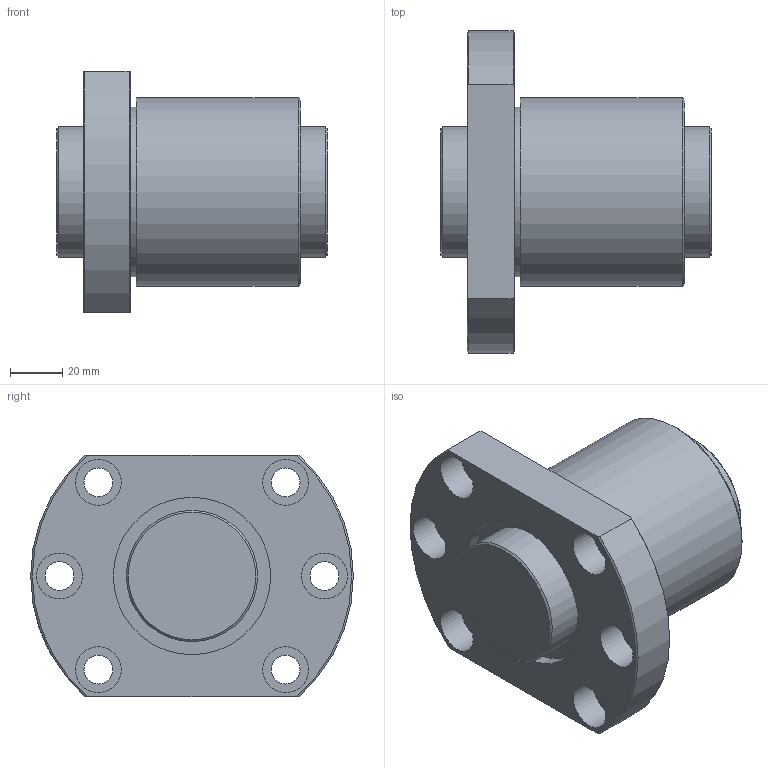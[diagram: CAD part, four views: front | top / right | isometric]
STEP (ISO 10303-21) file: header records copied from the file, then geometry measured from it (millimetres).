
FILE_DESCRIPTION(/* description */ ('STEP AP203'),/* implementation_level */ '2;1');
FILE_NAME(/* name */ 'DK5010-3RRG1+103LC0_000',/* time_stamp */ '2025-01-13T09:20:49+01:00',/* author */ ('License CC BY-ND 4.0'),/* organization */ ('CADENAS'),/* preprocessor_version */ 'ST-DEVELOPER v19.3',/* originating_system */ 'PARTsolutions',/* authorisation */ ' ');
FILE_SCHEMA (('CONFIG_CONTROL_DESIGN'));
Length unit declared in the file: millimetre
Products named in the file (3): DK5010-3RRG1+103LC0_000; DK 5010-3RR010300 Shaft; DK 5010-3RR0Nut
Assembly tree (2 placements, depth 2):
  DK5010-3RRG1+103LC0_000
    DK 5010-3RR010300 Shaft
    DK 5010-3RR0Nut
Bounding box: 103 x 123 x 92 mm (x, y, z)
Volume: 454441 mm3; surface area: 77103 mm2
Topology: 2 solids, 2 shells, 46 faces, 94 edges, 62 vertices
Faces by surface type: cylinder 21, plane 16, cone 9
Full cylindrical faces by diameter (mm): 8.566 x1, 11 x6, 17.5 x6, 50 x2, 60 x2, 64.8 x1, 72 x1
Entity records: 1223 total; most frequent: CARTESIAN_POINT 227, DIRECTION 204, ORIENTED_EDGE 134, AXIS2_PLACEMENT_3D 98, EDGE_LOOP 96, FACE_BOUND 96, EDGE_CURVE 67, VERTEX_POINT 59
